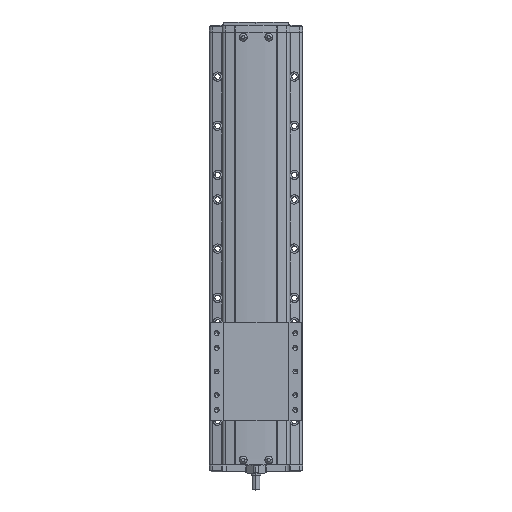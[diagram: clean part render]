
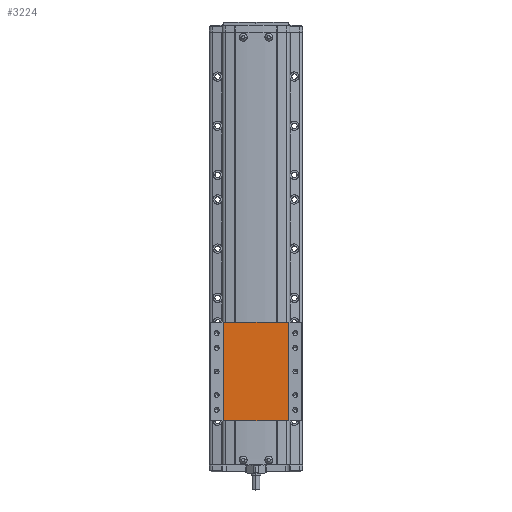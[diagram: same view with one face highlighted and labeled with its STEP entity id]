
A CAD part, top view. The second image highlights one B-rep face of the part: STEP entity #3224.
In plain terms, the highlighted planar face has unit normal (0, 0, 1).
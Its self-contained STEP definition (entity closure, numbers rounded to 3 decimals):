
#3224=ADVANCED_FACE('',(#7599),#7600,.F.);
#7599=FACE_OUTER_BOUND('',#14001,.T.);
#7600=PLANE('',#14002);
#14001=EDGE_LOOP('',(#24501,#24502,#24503,#24504));
#14002=AXIS2_PLACEMENT_3D('',#24505,#24506,#24507);
#24501=ORIENTED_EDGE('',*,*,#38285,.F.);
#24502=ORIENTED_EDGE('',*,*,#38278,.F.);
#24503=ORIENTED_EDGE('',*,*,#38286,.F.);
#24504=ORIENTED_EDGE('',*,*,#38287,.T.);
#24505=CARTESIAN_POINT('',(0.,67.222,30.5));
#24506=DIRECTION('',(0.,0.,-1.0));
#24507=DIRECTION('',(-1.0,0.,0.));
#38278=EDGE_CURVE('',#46894,#46890,#46896,.T.);
#38285=EDGE_CURVE('',#46890,#46907,#46908,.T.);
#38286=EDGE_CURVE('',#46909,#46894,#46910,.T.);
#38287=EDGE_CURVE('',#46909,#46907,#46911,.T.);
#46890=VERTEX_POINT('',#59457);
#46894=VERTEX_POINT('',#59462);
#46896=LINE('',#59464,#59465);
#46907=VERTEX_POINT('',#59478);
#46908=LINE('',#59479,#59480);
#46909=VERTEX_POINT('',#59481);
#46910=LINE('',#59482,#59483);
#46911=LINE('',#59484,#59485);
#59457=CARTESIAN_POINT('',(-32.876,167.222,30.5));
#59462=CARTESIAN_POINT('',(-32.876,67.222,30.5));
#59464=CARTESIAN_POINT('',(-32.876,67.222,30.5));
#59465=VECTOR('',#69401,10.0);
#59478=CARTESIAN_POINT('',(32.876,167.222,30.5));
#59479=CARTESIAN_POINT('',(32.876,167.222,30.5));
#59480=VECTOR('',#69410,10.0);
#59481=CARTESIAN_POINT('',(32.876,67.222,30.5));
#59482=CARTESIAN_POINT('',(32.876,67.222,30.5));
#59483=VECTOR('',#69411,10.0);
#59484=CARTESIAN_POINT('',(32.876,67.222,30.5));
#59485=VECTOR('',#69412,10.0);
#69401=DIRECTION('',(0.,1.0,0.));
#69410=DIRECTION('',(1.0,0.,0.));
#69411=DIRECTION('',(-1.0,0.,0.));
#69412=DIRECTION('',(0.,1.0,0.));
